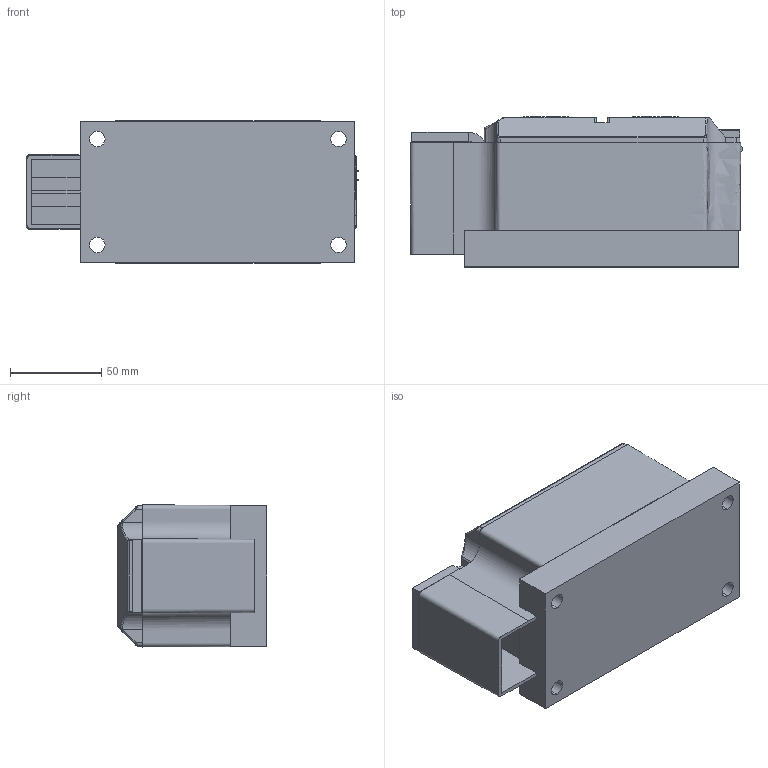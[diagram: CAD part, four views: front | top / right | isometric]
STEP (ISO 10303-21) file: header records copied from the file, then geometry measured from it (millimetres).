
FILE_DESCRIPTION (( 'STEP AP214' ), '1' );
FILE_NAME ('MTD7-TD.STEP', '2021-02-05T13:45:47', ( '' ), ( '' ), 'SwSTEP 2.0', 'SolidWorks 2018', '' );
FILE_SCHEMA (( 'AUTOMOTIVE_DESIGN' ));
Length unit declared in the file: millimetre
Products named in the file (1): MTD7-TD
Bounding box: 181.7 x 82.07 x 78 mm (x, y, z)
Volume: 421867.6 mm3; surface area: 142091.8 mm2
Topology: 15 solids, 15 shells, 531 faces, 1338 edges, 842 vertices
Faces by surface type: plane 270, cylinder 153, cone 50, torus 28, sphere 18, bspline 12
Entity records: 22788 total; most frequent: CARTESIAN_POINT 4029, DIRECTION 2665, ORIENTED_EDGE 2620, EDGE_CURVE 1310, AXIS2_PLACEMENT_3D 954, VERTEX_POINT 842, LINE 757, VECTOR 757
